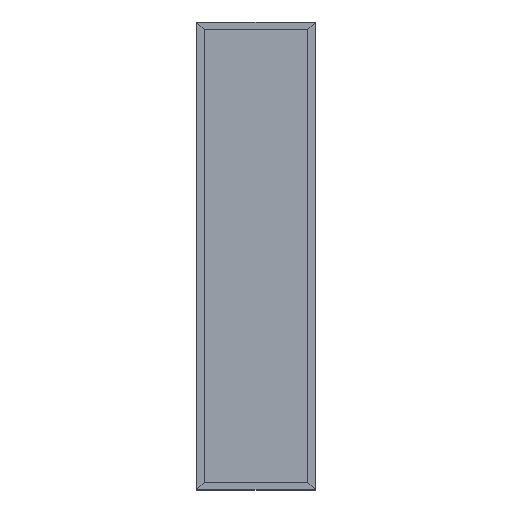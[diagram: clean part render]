
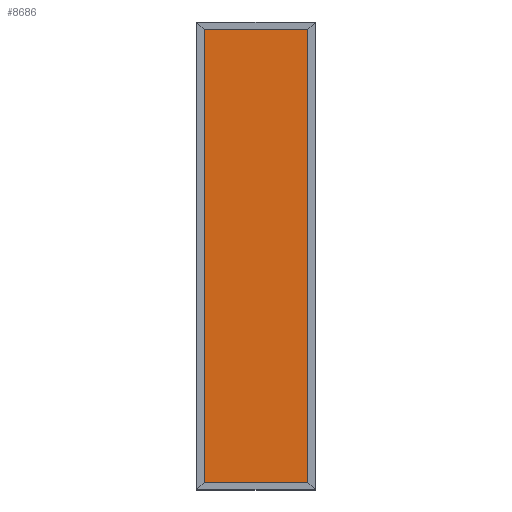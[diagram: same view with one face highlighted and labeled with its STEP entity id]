
A CAD part, top view. The second image highlights one B-rep face of the part: STEP entity #8686.
In plain terms, the highlighted planar face has unit normal (0, 0, 1).
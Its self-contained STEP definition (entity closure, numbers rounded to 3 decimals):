
#253 = VECTOR ( 'NONE', #4234, 1000. ) ;
#290 = AXIS2_PLACEMENT_3D ( 'NONE', #12685, #7245, #2885 ) ;
#731 = ORIENTED_EDGE ( 'NONE', *, *, #3722, .F. ) ;
#831 = VECTOR ( 'NONE', #11917, 1000. ) ;
#2425 = ORIENTED_EDGE ( 'NONE', *, *, #13941, .F. ) ;
#2518 = PLANE ( 'NONE',  #290 ) ;
#2885 = DIRECTION ( 'NONE',  ( -1., 0., 0. ) ) ;
#3722 = EDGE_CURVE ( 'NONE', #7235, #4351, #4516, .T. ) ;
#4234 = DIRECTION ( 'NONE',  ( 0., 1., 0. ) ) ;
#4351 = VERTEX_POINT ( 'NONE', #15230 ) ;
#4516 = LINE ( 'NONE', #10193, #253 ) ;
#5621 = FACE_OUTER_BOUND ( 'NONE', #15692, .T. ) ;
#5672 = CARTESIAN_POINT ( 'NONE',  ( 267.075, 0., -13.25 ) ) ;
#6552 = LINE ( 'NONE', #12365, #18417 ) ;
#6683 = CARTESIAN_POINT ( 'NONE',  ( -267.075, -1162.2, -13.25 ) ) ;
#7235 = VERTEX_POINT ( 'NONE', #6683 ) ;
#7245 = DIRECTION ( 'NONE',  ( 0., 0., -1. ) ) ;
#8049 = CARTESIAN_POINT ( 'NONE',  ( 267.075, -1162.2, -13.25 ) ) ;
#8686 = ADVANCED_FACE ( 'NONE', ( #5621 ), #2518, .F. ) ;
#8918 = ORIENTED_EDGE ( 'NONE', *, *, #15189, .T. ) ;
#9291 = ORIENTED_EDGE ( 'NONE', *, *, #17597, .T. ) ;
#9867 = DIRECTION ( 'NONE',  ( -1., 0., 0. ) ) ;
#10193 = CARTESIAN_POINT ( 'NONE',  ( -267.075, 0., -13.25 ) ) ;
#10713 = VERTEX_POINT ( 'NONE', #13775 ) ;
#11917 = DIRECTION ( 'NONE',  ( -1., 0., 0. ) ) ;
#12365 = CARTESIAN_POINT ( 'NONE',  ( 0., -1162.2, -13.25 ) ) ;
#12685 = CARTESIAN_POINT ( 'NONE',  ( 0., 0., -13.25 ) ) ;
#13345 = CARTESIAN_POINT ( 'NONE',  ( 0., 1162.2, -13.25 ) ) ;
#13775 = CARTESIAN_POINT ( 'NONE',  ( 267.075, 1162.2, -13.25 ) ) ;
#13941 = EDGE_CURVE ( 'NONE', #14425, #7235, #6552, .T. ) ;
#14415 = DIRECTION ( 'NONE',  ( 0., 1., 0. ) ) ;
#14425 = VERTEX_POINT ( 'NONE', #8049 ) ;
#15189 = EDGE_CURVE ( 'NONE', #10713, #4351, #16386, .T. ) ;
#15230 = CARTESIAN_POINT ( 'NONE',  ( -267.075, 1162.2, -13.25 ) ) ;
#15692 = EDGE_LOOP ( 'NONE', ( #2425, #9291, #8918, #731 ) ) ;
#15845 = LINE ( 'NONE', #5672, #16178 ) ;
#16178 = VECTOR ( 'NONE', #14415, 1000. ) ;
#16386 = LINE ( 'NONE', #13345, #831 ) ;
#17597 = EDGE_CURVE ( 'NONE', #14425, #10713, #15845, .T. ) ;
#18417 = VECTOR ( 'NONE', #9867, 1000. ) ;
